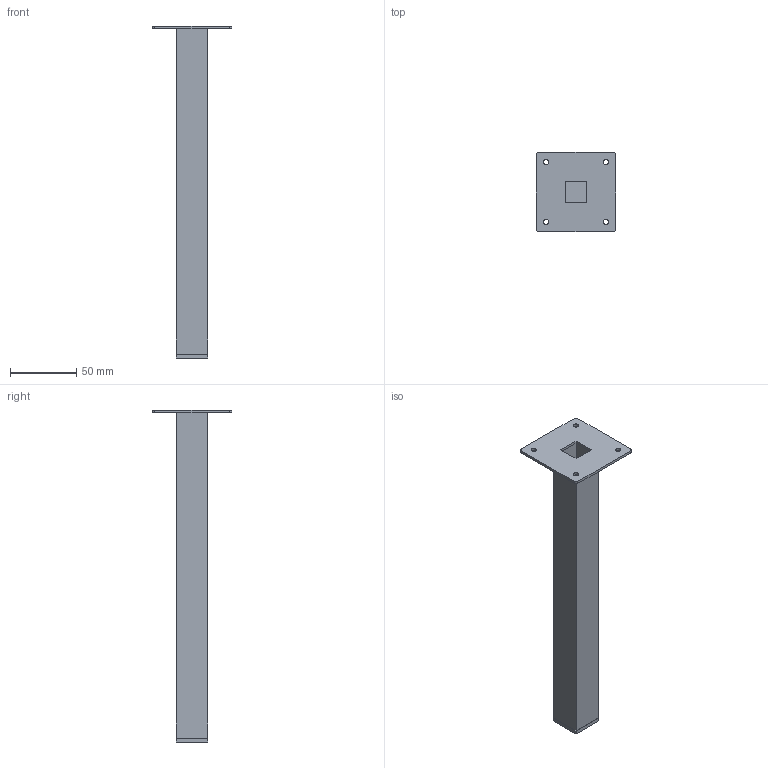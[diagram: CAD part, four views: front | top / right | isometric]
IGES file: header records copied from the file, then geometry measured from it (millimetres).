
Start section: Data from Parasolid IGES Translator 15.0.47, Copyright(c) 2006 Siemens P LM Software. All Rights Reserved.
Global section: file name: 1379.igs; native system:  By UGS Corp.; preprocessor: XPlus GENERIC/IGES 3.0; author: Noname; organization: Noname; date: 20140121.135922; units: millimetre
Bounding box: 60 x 60 x 250 mm (x, y, z)
Surface area: 53798.9 mm2 (no closed solid volume)
Topology: 0 solids, 0 shells, 39 faces, 192 edges, 184 vertices
Faces by surface type: extrusion 31, revolution 8
